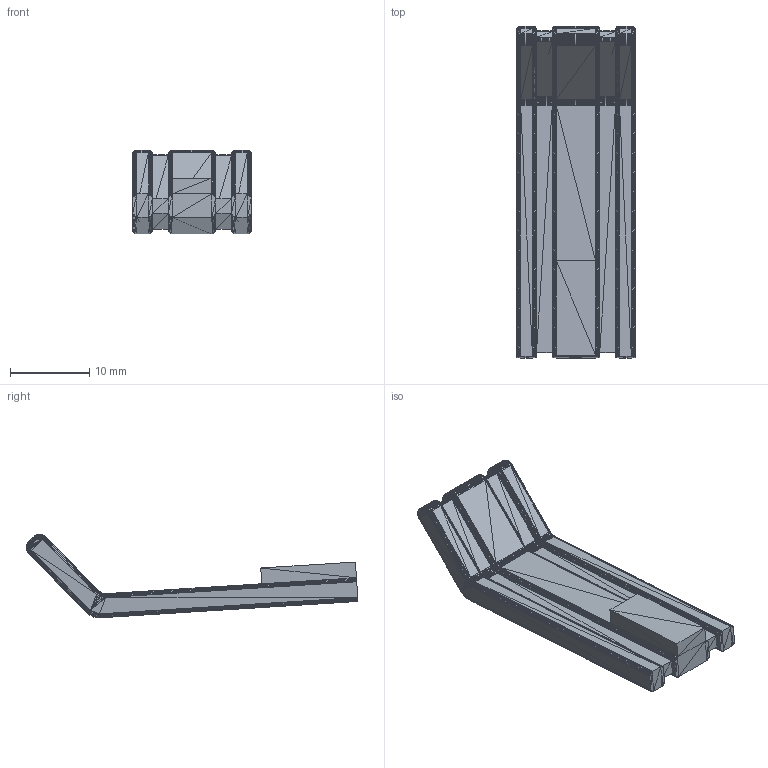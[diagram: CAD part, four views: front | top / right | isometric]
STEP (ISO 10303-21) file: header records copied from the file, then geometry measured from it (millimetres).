
FILE_DESCRIPTION((''),'2;1');
FILE_NAME('Index Finger P1 Inner', '2025-03-27T07:44:07', (''), (''), 'ImageToStl.com STEP Converter','', '');
FILE_SCHEMA(('AUTOMOTIVE_DESIGN_CC2'));
Length unit declared in the file: metre
Products named in the file (1): product0
Bounding box: 15 x 41.97 x 10.58 mm (x, y, z)
Surface area: 1840.4 mm2 (no closed solid volume)
Topology: 0 solids, 10232 shells, 10232 faces, 30696 edges, 5118 vertices
Faces by surface type: plane 10232
Entity records: 245607 total; most frequent: DIRECTION 51162, ORIENTED_EDGE 30696, EDGE_CURVE 30696, LINE 30696, VECTOR 30696, AXIS2_PLACEMENT_3D 10233, STYLED_ITEM 10233, FACE_SURFACE 10232
